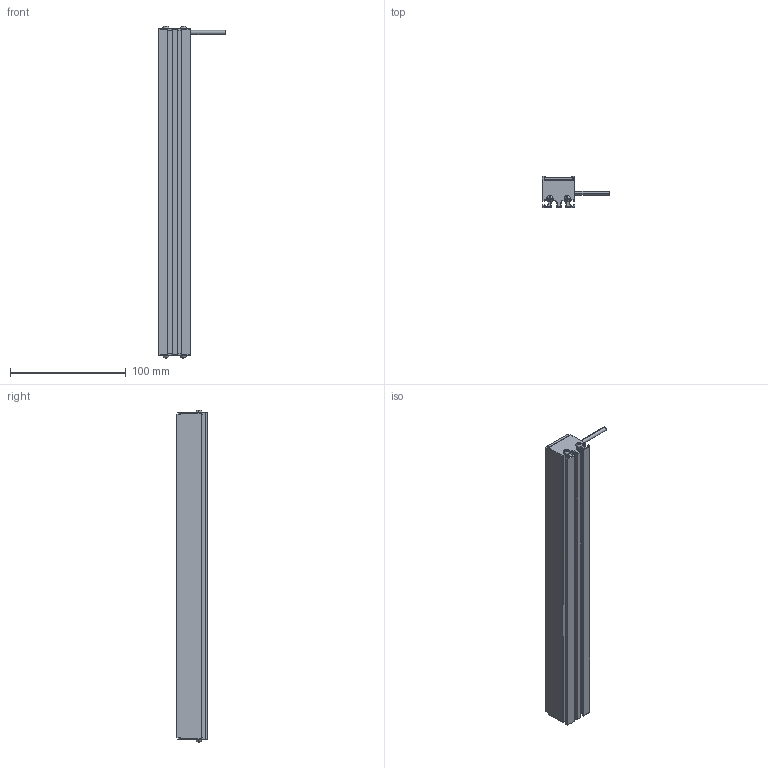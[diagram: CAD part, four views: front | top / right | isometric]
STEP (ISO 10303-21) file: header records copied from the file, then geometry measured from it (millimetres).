
FILE_DESCRIPTION((''),'2;1');
FILE_NAME('MV-LLDS-282-28_ASM','2020-12-29T',('Administrator'),(''),'PRO/ENGINEER BY PARAMETRIC TECHNOLOGY CORPORATION, 2010100','PRO/ENGINEER BY PARAMETRIC TECHNOLOGY CORPORATION, 2010100','');
FILE_SCHEMA(('CONFIG_CONTROL_DESIGN'));
Length unit declared in the file: millimetre
Products named in the file (3): BL-4_2_; M3-5_3; MV-LLDS-282-28_ASM
Assembly tree (5 placements, depth 2):
  MV-LLDS-282-28_ASM
    BL-4_2_
    M3-5_3  x4
Bounding box: 58 x 27 x 286.68 mm (x, y, z)
Volume: 176798.7 mm3; surface area: 67294.9 mm2
Topology: 5 solids, 13 shells, 303 faces, 802 edges, 516 vertices
Faces by surface type: plane 185, cylinder 70, cone 16, bspline 16, torus 8, sphere 8
Entity records: 6728 total; most frequent: CARTESIAN_POINT 1440, ORIENTED_EDGE 1074, DIRECTION 1069, EDGE_CURVE 547, VECTOR 397, LINE 397, VERTEX_POINT 357, AXIS2_PLACEMENT_3D 336
